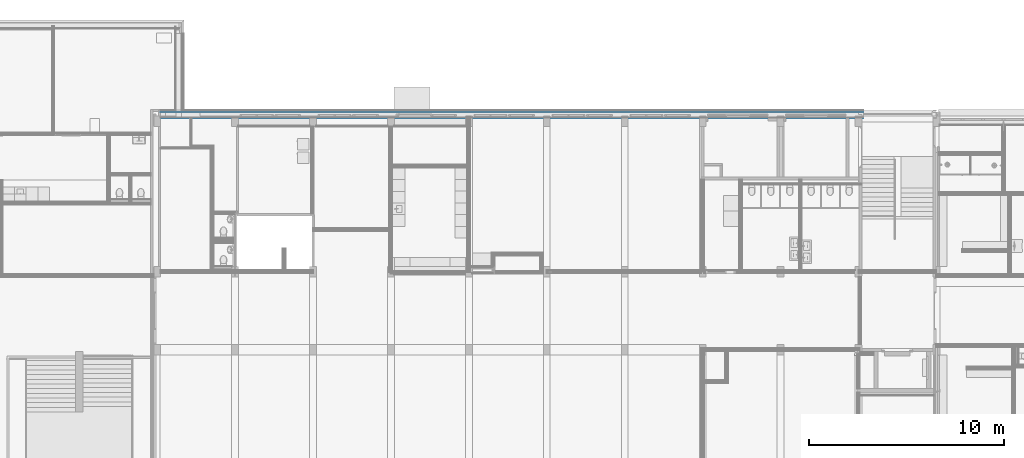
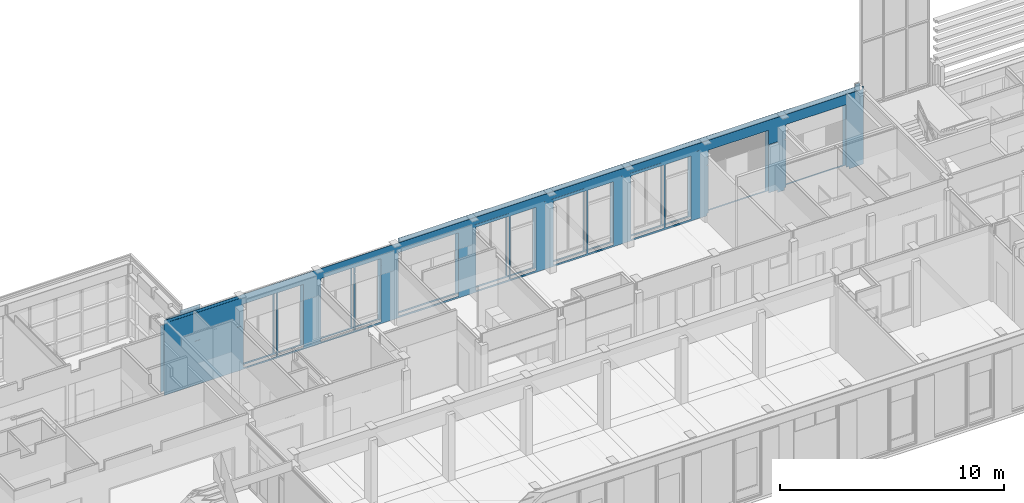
# One storey, part 73 of 109: 2 building element parts, 14 openings, 1 element without a shape of its own.
"""IFC2X3 building model written with IfcOpenShell, lengths in millimetres."""

import ifcopenshell
import ifcopenshell.guid

model = None  # the IFC model being written
_history = None  # IfcOwnerHistory: only IFC2X3 demands one
_inside = {}  # id of a spatial element -> (the spatial element, [elements in it])
_under = {}  # id of a project, library or spatial element -> (it, [spatial elements below it])
_declared = {}  # id of a project -> (the project, [libraries it declares])
_typed = {}  # id of a type object -> (the type object, [elements of that type])
_made_of = {}  # id of a material, layer set ... -> (it, [elements and type objects made of it])


def new_model(schema):
    """Start an empty IFC model of exactly this schema.

    Asked for "IFC4X3", IfcOpenShell would pick the latest addendum, in which some entities
    have other attributes; the version numbers below select the first issue.
    IFC2X3 requires an IfcOwnerHistory on every rooted entity: one is made here for all.
    """
    global model, _history
    if schema == "IFC4X3":
        model = ifcopenshell.file(schema_version=(4, 3, 0, 0))
    else:
        model = ifcopenshell.file(schema=schema)
    _inside.clear()
    _under.clear()
    _declared.clear()
    _typed.clear()
    _made_of.clear()
    _history = None
    if model.schema == "IFC2X3":
        org = make("IfcOrganization", Name="unknown")
        user = make(
            "IfcPersonAndOrganization",
            ThePerson=make("IfcPerson", FamilyName="unknown"),
            TheOrganization=org,
        )
        app = make(
            "IfcApplication",
            ApplicationDeveloper=org,
            Version="unknown",
            ApplicationFullName="unknown",
            ApplicationIdentifier="unknown",
        )
        _history = make(
            "IfcOwnerHistory",
            OwningUser=user,
            OwningApplication=app,
            ChangeAction="ADDED",
            CreationDate=0,
        )
    return model


def make(cls, **values):
    """One entity of the class cls with the attributes given. An attribute that is None is left unset."""
    return model.create_entity(
        cls, **{name: value for name, value in values.items() if value is not None}
    )


def entity(cls, *values):
    """Any entity or typed value of the class cls, its attributes in the order of the schema. None: left unset."""
    e = model.create_entity(cls)
    for i, value in enumerate(values):
        if value is not None:
            e[i] = value
    return e


def rooted(cls, **values):
    """An entity with a GlobalId (a new one), such as an element, a storey or a relation."""
    return make(cls, GlobalId=ifcopenshell.guid.new(), OwnerHistory=_history, **values)


def si_unit(unit_type, name, prefix=None):
    """IfcSIUnit, for example si_unit("LENGTHUNIT", "METRE", prefix="MILLI")."""
    return make("IfcSIUnit", UnitType=unit_type, Prefix=prefix, Name=name)


def converted_unit(unit_type, name, factor, base, dimensions=None, offset=None):
    """IfcConversionBasedUnit, such as the inch: factor (a typed value) times the base unit."""
    return make(
        "IfcConversionBasedUnit"
        if offset is None
        else "IfcConversionBasedUnitWithOffset",
        ConversionOffset=offset,
        Dimensions=None
        if dimensions is None
        else entity("IfcDimensionalExponents", *dimensions),
        UnitType=unit_type,
        Name=name,
        ConversionFactor=make(
            "IfcMeasureWithUnit", ValueComponent=factor, UnitComponent=base
        ),
    )


def derived_unit(unit_type, elements):
    """IfcDerivedUnit: a product of units, each with its exponent."""
    return make(
        "IfcDerivedUnit",
        Elements=[
            make("IfcDerivedUnitElement", Unit=unit, Exponent=power)
            for unit, power in elements
        ],
        UnitType=unit_type,
    )


def money_unit(currency):
    """IfcMonetaryUnit."""
    return make("IfcMonetaryUnit", Currency=currency)


def assignment(units):
    """IfcUnitAssignment: the units of a project."""
    return None if units is None else make("IfcUnitAssignment", Units=units)


def point(xyz):
    """IfcCartesianPoint."""
    return None if xyz is None else make("IfcCartesianPoint", Coordinates=xyz)


def direction(xyz):
    """IfcDirection."""
    return None if xyz is None else make("IfcDirection", DirectionRatios=xyz)


def frame(location, z_axis=None, x_axis=None):
    """IfcAxis2Placement3D, a coordinate frame: its origin and axes. An axis left out is left unset."""
    return make(
        "IfcAxis2Placement3D",
        Location=point(location),
        Axis=direction(z_axis),
        RefDirection=direction(x_axis),
    )


def origin_with_axes():
    """The frame at (0, 0, 0) with the z axis (0, 0, 1) and the x axis (1, 0, 0) written out."""
    return frame((0.0, 0.0, 0.0), z_axis=(0.0, 0.0, 1.0), x_axis=(1.0, 0.0, 0.0))


def place(relative_to, where):
    """IfcLocalPlacement: puts the frame where relative to a parent placement (None: the world)."""
    return make(
        "IfcLocalPlacement", PlacementRelTo=relative_to, RelativePlacement=where
    )


def context(
    kind, dimensions, precision=None, world=None, true_north=None, identifier=None
):
    """IfcGeometricRepresentationContext, for example the 3D "Model" context."""
    return make(
        "IfcGeometricRepresentationContext",
        ContextIdentifier=identifier,
        ContextType=kind,
        CoordinateSpaceDimension=dimensions,
        Precision=precision,
        WorldCoordinateSystem=world,
        TrueNorth=true_north,
    )


def subcontext(parent, identifier, kind, view, scale=None):
    """IfcGeometricRepresentationSubContext, for example "Body" below "Model"."""
    return make(
        "IfcGeometricRepresentationSubContext",
        ContextIdentifier=identifier,
        ContextType=kind,
        ParentContext=parent,
        TargetScale=scale,
        TargetView=view,
    )


def project(units=None, contexts=None):
    """IfcProject with its units and contexts."""
    return rooted(
        "IfcProject",
        Name="project",
        RepresentationContexts=contexts,
        UnitsInContext=assignment(units),
    )


def spatial(cls, under=None, at=None, **own):
    """A site, building, storey or space (cls), placed at a placement, below another one or the project."""
    s = rooted(cls, ObjectPlacement=at, **own)
    if under is not None:
        _under.setdefault(under.id(), (under, []))[1].append(s)
    return s


def faces_of(points, faces, orient=None, outer=None):
    """IfcFace entities. A face is a list of loops; a loop is a list of indices into points, from 0.

    orient and outer hold one flag for each loop. By default every Orientation is true, the
    first loop of a face is its IfcFaceOuterBound and the others are IfcFaceBound.
    """
    made = []
    for i, loops in enumerate(faces):
        bounds = []
        for j, loop in enumerate(loops):
            is_outer = j == 0 if outer is None else outer[i][j]
            bounds.append(
                make(
                    "IfcFaceOuterBound" if is_outer else "IfcFaceBound",
                    Bound=make("IfcPolyLoop", Polygon=[points[k] for k in loop]),
                    Orientation=True if orient is None else orient[i][j],
                )
            )
        made.append(make("IfcFace", Bounds=bounds))
    return made


def faceted_brep(points, faces, orient=None, outer=None, voids=None):
    """IfcFacetedBrep: a solid bounded by flat faces; with voids (closed shells), ...WithVoids."""
    shared = [point(p) for p in points]
    hull = make("IfcClosedShell", CfsFaces=faces_of(shared, faces, orient, outer))
    if voids is None:
        return make("IfcFacetedBrep", Outer=hull)
    return make(
        "IfcFacetedBrepWithVoids",
        Outer=hull,
        Voids=[
            make(cls, CfsFaces=faces_of(shared, fs, o, b)) for cls, fs, o, b in voids
        ],
    )


def shape(context_of_items, identifier, shape_type, items):
    """IfcShapeRepresentation: the items that make up one representation, for example the "Body"."""
    return make(
        "IfcShapeRepresentation",
        ContextOfItems=context_of_items,
        RepresentationIdentifier=identifier,
        RepresentationType=shape_type,
        Items=items,
    )


def material(Name=None, Category=None):
    """IfcMaterial."""
    return make("IfcMaterial", Name=Name, Category=Category)


def made_of(thing, what):
    """Note that an element or type object is made of a material, layer set ...; save() writes the relation."""
    if what is not None:
        _made_of.setdefault(what.id(), (what, []))[1].append(thing)
    return thing


def type_object(cls, material=None, **own):
    """A type object (cls), such as IfcWallType, which elements share."""
    return made_of(rooted(cls, **own), material)


def element(
    cls,
    number,
    at=None,
    inside=None,
    cuts=None,
    type_object=None,
    material=None,
    context=None,
    identifier="Body",
    shape_type=None,
    held_by="IfcProductDefinitionShape",
    body=None,
    shapes=None,
    **own,
):
    """One element of the class cls, such as IfcWall. Its Tag is "e" and its number.

    at: its placement. inside: the storey or other place that contains it. cuts: it is an
    opening in that element (IfcRelVoidsElement). A single representation is given by context,
    identifier, shape_type and body (its items); several are given by shapes. held_by: the class
    of the entity that holds the representations. save() writes the other relations.
    """
    e = rooted(cls, Tag="e%d" % number, ObjectPlacement=at, **own)
    if body is not None:
        shapes = [shape(context, identifier, shape_type, body)]
    if shapes is not None:
        e.Representation = make(held_by, Representations=shapes)
    if inside is not None:
        _inside.setdefault(inside.id(), (inside, []))[1].append(e)
    if cuts is not None:
        rooted(
            "IfcRelVoidsElement", RelatingBuildingElement=cuts, RelatedOpeningElement=e
        )
    if type_object is not None:
        _typed.setdefault(type_object.id(), (type_object, []))[1].append(e)
    return made_of(e, material)


def aggregate(whole, parts):
    """IfcRelAggregates: a whole, such as a stair, and the parts it consists of."""
    return rooted("IfcRelAggregates", RelatingObject=whole, RelatedObjects=parts)


def save(model, path):
    """Write the relations noted so far, then the file.

    IfcRelAggregates (storeys below a building ...), IfcRelContainedInSpatialStructure (elements
    in a storey), IfcRelDefinesByType, IfcRelAssociatesMaterial and IfcRelDeclares: one each for
    every whole, place, type object, material and project.
    """
    for whole, parts in _under.values():
        aggregate(whole, parts)
    for where, things in _inside.values():
        rooted(
            "IfcRelContainedInSpatialStructure",
            RelatedElements=things,
            RelatingStructure=where,
        )
    for kind, things in _typed.values():
        rooted("IfcRelDefinesByType", RelatedObjects=things, RelatingType=kind)
    for what, things in _made_of.values():
        rooted("IfcRelAssociatesMaterial", RelatedObjects=things, RelatingMaterial=what)
    for by, libraries in _declared.values():
        rooted("IfcRelDeclares", RelatingContext=by, RelatedDefinitions=libraries)
    model.write(path)


model = new_model("IFC2X3")

# Units and contexts
model_context = context("Model", 3, precision=0.01, world=origin_with_axes(), true_north=direction((0.0, 1.0)))
body_context = subcontext(model_context, "Body", "Model", "MODEL_VIEW")
ifc_project = project(units=[si_unit("LENGTHUNIT", "METRE", prefix="MILLI"), si_unit("AREAUNIT", "SQUARE_METRE"), si_unit("VOLUMEUNIT", "CUBIC_METRE"), converted_unit("PLANEANGLEUNIT", "DEGREE", entity("IfcPlaneAngleMeasure", 0.0174532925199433), si_unit("PLANEANGLEUNIT", "RADIAN"), dimensions=[0, 0, 0, 0, 0, 0, 0]), money_unit("EUR"), converted_unit("TIMEUNIT", "Year", entity("IfcTimeMeasure", 31557600.0), si_unit("TIMEUNIT", "SECOND"), dimensions=[0, 0, 1, 0, 0, 0, 0]), si_unit("MASSUNIT", "GRAM", prefix="KILO"), si_unit("THERMODYNAMICTEMPERATUREUNIT", "DEGREE_CELSIUS"), si_unit("LUMINOUSINTENSITYUNIT", "LUMEN"), si_unit("ENERGYUNIT", "JOULE", prefix="MEGA"), derived_unit("THERMALCONDUCTANCEUNIT", [(si_unit("POWERUNIT", "WATT"), 1), (si_unit("LENGTHUNIT", "METRE"), -1), (si_unit("THERMODYNAMICTEMPERATUREUNIT", "KELVIN"), -1)]), derived_unit("SPECIFICHEATCAPACITYUNIT", [(si_unit("ENERGYUNIT", "JOULE"), 1), (si_unit("MASSUNIT", "GRAM", prefix="KILO"), -1), (si_unit("THERMODYNAMICTEMPERATUREUNIT", "KELVIN"), -1)]), derived_unit("MASSDENSITYUNIT", [(si_unit("MASSUNIT", "GRAM", prefix="KILO"), 1), (si_unit("VOLUMEUNIT", "CUBIC_METRE"), -1)])], contexts=[model_context])

# Site, building, storey
site_placement = place(None, origin_with_axes())
site = spatial("IfcSite", under=ifc_project, at=site_placement, Name="<site naam>", CompositionType="ELEMENT")
building_placement = place(site_placement, origin_with_axes())
building = spatial("IfcBuilding", under=site, at=building_placement, Name="<Naam gebouw>", CompositionType="ELEMENT")
storey_placement = place(building_placement, origin_with_axes())
storey = spatial("IfcBuildingStorey", under=building, at=storey_placement, Name="00 Begane grond", CompositionType="ELEMENT", Elevation=0.0)

# Wall, openings, building element parts
wall_type = type_object("IfcWallType", Name="HSB_285 gevelbeplating 420", PredefinedType="NOTDEFINED")
wall_placement = place(storey_placement, frame((48251.99999966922, 20297.99999999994, 0.0), z_axis=(0.0, 0.0, 1.0), x_axis=(-1.0, 0.0, 0.0)))
wall = element("IfcWall", 1, at=wall_placement, inside=storey, type_object=wall_type, Name="21_Binnenwand_HSB_285")
opening_1_placement = place(wall_placement, frame((17550.9999996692, 0.0, 100.0), z_axis=(0.0, 0.0, 1.0), x_axis=(1.0, 0.0, 0.0)))
element("IfcOpeningElement", 2, at=opening_1_placement, cuts=wall, Name="21_BU-A-01b sp_305", context=body_context, shape_type="Brep", body=[
    faceted_brep([(663.0000000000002, 212.9999999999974, 3450.0), (-663.0000000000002, 212.9999999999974, 3450.0), (-663.0000000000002, -1.000000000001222, 3450.0), (663.0000000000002, -1.000000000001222, 3450.0), (663.0000000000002, 421.000000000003, 3450.0), (-663.0000000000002, 421.000000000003, 3450.0), (-663.0000000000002, 212.9999999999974, 0.0), (-663.0000000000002, -1.000000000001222, 0.0), (663.0000000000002, -1.000000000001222, 0.0), (663.0000000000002, 212.9999999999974, 0.0), (663.0000000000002, 421.000000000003, 0.0), (-663.0000000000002, 421.000000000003, 0.0)], [[[0, 1, 2, 3]], [[1, 0, 4, 5]], [[1, 6, 7, 2]], [[2, 7, 8, 3]], [[9, 0, 3, 8]], [[0, 9, 10, 4]], [[4, 10, 11, 5]], [[6, 1, 5, 11]], [[6, 9, 8, 7]], [[9, 6, 11, 10]]]),
])
opening_2_placement = place(wall_placement, frame((25551.00012310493, 0.0, 100.0), z_axis=(0.0, 0.0, 1.0), x_axis=(1.0, 0.0, 0.0)))
element("IfcOpeningElement", 3, at=opening_2_placement, cuts=wall, Name="21_BU-A-01b sp_305", context=body_context, shape_type="Brep", body=[
    faceted_brep([(663.0000000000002, 212.9999999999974, 3450.0), (-663.0000000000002, 212.9999999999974, 3450.0), (-663.0000000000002, -1.000000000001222, 3450.0), (663.0000000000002, -1.000000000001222, 3450.0), (663.0000000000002, 421.000000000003, 3450.0), (-663.0000000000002, 421.000000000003, 3450.0), (-663.0000000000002, 212.9999999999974, 0.0), (-663.0000000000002, -1.000000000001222, 0.0), (663.0000000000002, -1.000000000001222, 0.0), (663.0000000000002, 212.9999999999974, 0.0), (663.0000000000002, 421.000000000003, 0.0), (-663.0000000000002, 421.000000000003, 0.0)], [[[0, 1, 2, 3]], [[1, 0, 4, 5]], [[1, 6, 7, 2]], [[2, 7, 8, 3]], [[9, 0, 3, 8]], [[0, 9, 10, 4]], [[4, 10, 11, 5]], [[6, 1, 5, 11]], [[6, 9, 8, 7]], [[9, 6, 11, 10]]]),
])
opening_3_placement = place(wall_placement, frame((27140.99995093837, 0.0, 100.0), z_axis=(0.0, 0.0, 1.0), x_axis=(1.0, 0.0, 0.0)))
element("IfcOpeningElement", 4, at=opening_3_placement, cuts=wall, Name="21_BU-A-01a sp_305", context=body_context, shape_type="Brep", body=[
    faceted_brep([(850.9999999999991, 212.9999999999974, 3450.0), (-850.9999999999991, 212.9999999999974, 3450.0), (-850.9999999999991, -1.000000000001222, 3450.0), (850.9999999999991, -1.000000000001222, 3450.0), (850.9999999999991, 421.000000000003, 3450.0), (-850.9999999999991, 421.000000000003, 3450.0), (-850.9999999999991, 212.9999999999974, 0.0), (-850.9999999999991, -1.000000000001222, 0.0), (850.9999999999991, -1.000000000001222, 0.0), (850.9999999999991, 212.9999999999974, 0.0), (850.9999999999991, 421.000000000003, 0.0), (-850.9999999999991, 421.000000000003, 0.0)], [[[0, 1, 2, 3]], [[1, 0, 4, 5]], [[1, 6, 7, 2]], [[2, 7, 8, 3]], [[9, 0, 3, 8]], [[0, 9, 10, 4]], [[4, 10, 11, 5]], [[6, 1, 5, 11]], [[6, 9, 8, 7]], [[9, 6, 11, 10]]]),
])
opening_4_placement = place(wall_placement, frame((19140.98053610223, 0.0, 100.0), z_axis=(0.0, 0.0, 1.0), x_axis=(1.0, 0.0, 0.0)))
element("IfcOpeningElement", 5, at=opening_4_placement, cuts=wall, Name="21_BU-A-01a sp_305", context=body_context, shape_type="Brep", body=[
    faceted_brep([(850.9999999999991, 212.9999999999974, 3450.0), (-850.9999999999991, 212.9999999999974, 3450.0), (-850.9999999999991, -1.000000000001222, 3450.0), (850.9999999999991, -1.000000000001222, 3450.0), (850.9999999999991, 421.000000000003, 3450.0), (-850.9999999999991, 421.000000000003, 3450.0), (-850.9999999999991, 212.9999999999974, 0.0), (-850.9999999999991, -1.000000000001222, 0.0), (850.9999999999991, -1.000000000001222, 0.0), (850.9999999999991, 212.9999999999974, 0.0), (850.9999999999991, 421.000000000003, 0.0), (-850.9999999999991, 421.000000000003, 0.0)], [[[0, 1, 2, 3]], [[1, 0, 4, 5]], [[1, 6, 7, 2]], [[2, 7, 8, 3]], [[9, 0, 3, 8]], [[0, 9, 10, 4]], [[4, 10, 11, 5]], [[6, 1, 5, 11]], [[6, 9, 8, 7]], [[9, 6, 11, 10]]]),
])
opening_5_placement = place(wall_placement, frame((9551.000010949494, 0.0, 100.0), z_axis=(0.0, 0.0, 1.0), x_axis=(1.0, 0.0, 0.0)))
element("IfcOpeningElement", 6, at=opening_5_placement, cuts=wall, Name="21_BU-A-01b sp_305", context=body_context, shape_type="Brep", body=[
    faceted_brep([(662.9999999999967, 213.000000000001, 3450.0), (-662.9999999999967, 213.000000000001, 3450.0), (-662.9999999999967, -1.000000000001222, 3450.0), (662.9999999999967, -1.000000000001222, 3450.0), (662.9999999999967, 421.000000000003, 3450.0), (-662.9999999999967, 421.000000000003, 3450.0), (-662.9999999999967, 213.000000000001, 0.0), (-662.9999999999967, -1.000000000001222, 0.0), (662.9999999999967, -1.000000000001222, 0.0), (662.9999999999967, 213.000000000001, 0.0), (662.9999999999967, 421.000000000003, 0.0), (-662.9999999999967, 421.000000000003, 0.0)], [[[0, 1, 2, 3]], [[1, 0, 4, 5]], [[1, 6, 7, 2]], [[2, 7, 8, 3]], [[9, 0, 3, 8]], [[0, 9, 10, 4]], [[4, 10, 11, 5]], [[6, 1, 5, 11]], [[6, 9, 8, 7]], [[9, 6, 11, 10]]]),
])
opening_6_placement = place(wall_placement, frame((13550.99999966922, 0.0, 100.0), z_axis=(0.0, 0.0, 1.0), x_axis=(1.0, 0.0, 0.0)))
element("IfcOpeningElement", 7, at=opening_6_placement, cuts=wall, Name="21_BU-A-01b sp_305", context=body_context, shape_type="Brep", body=[
    faceted_brep([(662.9999999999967, 213.000000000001, 3450.0), (-662.9999999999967, 213.000000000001, 3450.0), (-662.9999999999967, -1.000000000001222, 3450.0), (662.9999999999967, -1.000000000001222, 3450.0), (662.9999999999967, 421.000000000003, 3450.0), (-662.9999999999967, 421.000000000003, 3450.0), (-662.9999999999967, 213.000000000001, 0.0), (-662.9999999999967, -1.000000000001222, 0.0), (662.9999999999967, -1.000000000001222, 0.0), (662.9999999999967, 213.000000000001, 0.0), (662.9999999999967, 421.000000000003, 0.0), (-662.9999999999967, 421.000000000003, 0.0)], [[[0, 1, 2, 3]], [[1, 0, 4, 5]], [[1, 6, 7, 2]], [[2, 7, 8, 3]], [[9, 0, 3, 8]], [[0, 9, 10, 4]], [[4, 10, 11, 5]], [[6, 1, 5, 11]], [[6, 9, 8, 7]], [[9, 6, 11, 10]]]),
])
opening_7_placement = place(wall_placement, frame((11140.9999996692, 0.0, 100.0), z_axis=(0.0, 0.0, 1.0), x_axis=(1.0, 0.0, 0.0)))
element("IfcOpeningElement", 8, at=opening_7_placement, cuts=wall, Name="21_BU-A-01a sp_305", context=body_context, shape_type="Brep", body=[
    faceted_brep([(850.9999999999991, 213.000000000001, 3450.0), (-850.9999999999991, 213.000000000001, 3450.0), (-850.9999999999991, -1.000000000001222, 3450.0), (850.9999999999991, -1.000000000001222, 3450.0), (850.9999999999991, 421.000000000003, 3450.0), (-850.9999999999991, 421.000000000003, 3450.0), (-850.9999999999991, 213.000000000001, 0.0), (-850.9999999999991, -1.000000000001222, 0.0), (850.9999999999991, -1.000000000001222, 0.0), (850.9999999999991, 213.000000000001, 0.0), (850.9999999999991, 421.000000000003, 0.0), (-850.9999999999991, 421.000000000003, 0.0)], [[[0, 1, 2, 3]], [[1, 0, 4, 5]], [[1, 6, 7, 2]], [[2, 7, 8, 3]], [[9, 0, 3, 8]], [[0, 9, 10, 4]], [[4, 10, 11, 5]], [[6, 1, 5, 11]], [[6, 9, 8, 7]], [[9, 6, 11, 10]]]),
])
opening_8_placement = place(wall_placement, frame((21551.00000902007, 0.0, 100.0), z_axis=(0.0, 0.0, 1.0), x_axis=(1.0, 0.0, 0.0)))
element("IfcOpeningElement", 9, at=opening_8_placement, cuts=wall, Name="21_BU-A-01b sp_305", context=body_context, shape_type="Brep", body=[
    faceted_brep([(663.0000000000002, 212.9999999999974, 3450.0), (-663.0000000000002, 212.9999999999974, 3450.0), (-663.0000000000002, -1.000000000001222, 3450.0), (663.0000000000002, -1.000000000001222, 3450.0), (663.0000000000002, 421.000000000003, 3450.0), (-663.0000000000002, 421.000000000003, 3450.0), (-663.0000000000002, 212.9999999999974, 0.0), (-663.0000000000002, -1.000000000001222, 0.0), (663.0000000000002, -1.000000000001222, 0.0), (663.0000000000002, 212.9999999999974, 0.0), (663.0000000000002, 421.000000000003, 0.0), (-663.0000000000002, 421.000000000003, 0.0)], [[[0, 1, 2, 3]], [[1, 0, 4, 5]], [[1, 6, 7, 2]], [[2, 7, 8, 3]], [[9, 0, 3, 8]], [[0, 9, 10, 4]], [[4, 10, 11, 5]], [[6, 1, 5, 11]], [[6, 9, 8, 7]], [[9, 6, 11, 10]]]),
])
opening_9_placement = place(wall_placement, frame((29550.99999966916, 0.0, 100.0), z_axis=(0.0, 0.0, 1.0), x_axis=(1.0, 0.0, 0.0)))
element("IfcOpeningElement", 10, at=opening_9_placement, cuts=wall, Name="21_BU-A-01b sp_305", context=body_context, shape_type="Brep", body=[
    faceted_brep([(663.0000000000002, 212.9999999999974, 3450.0), (-663.0000000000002, 212.9999999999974, 3450.0), (-663.0000000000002, -1.000000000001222, 3450.0), (663.0000000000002, -1.000000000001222, 3450.0), (663.0000000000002, 421.000000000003, 3450.0), (-663.0000000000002, 421.000000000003, 3450.0), (-663.0000000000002, 212.9999999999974, 0.0), (-663.0000000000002, -1.000000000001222, 0.0), (663.0000000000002, -1.000000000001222, 0.0), (663.0000000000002, 212.9999999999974, 0.0), (663.0000000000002, 421.000000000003, 0.0), (-663.0000000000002, 421.000000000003, 0.0)], [[[0, 1, 2, 3]], [[1, 0, 4, 5]], [[1, 6, 7, 2]], [[2, 7, 8, 3]], [[9, 0, 3, 8]], [[0, 9, 10, 4]], [[4, 10, 11, 5]], [[6, 1, 5, 11]], [[6, 9, 8, 7]], [[9, 6, 11, 10]]]),
])
opening_10_placement = place(wall_placement, frame((31140.99993875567, 0.0, 100.0), z_axis=(0.0, 0.0, 1.0), x_axis=(1.0, 0.0, 0.0)))
element("IfcOpeningElement", 11, at=opening_10_placement, cuts=wall, Name="21_BU-A-01a sp_305", context=body_context, shape_type="Brep", body=[
    faceted_brep([(850.9999999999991, 212.9999999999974, 3450.0), (-850.9999999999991, 212.9999999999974, 3450.0), (-850.9999999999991, -1.000000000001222, 3450.0), (850.9999999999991, -1.000000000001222, 3450.0), (850.9999999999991, 421.000000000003, 3450.0), (-850.9999999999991, 421.000000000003, 3450.0), (-850.9999999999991, 212.9999999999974, 0.0), (-850.9999999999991, -1.000000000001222, 0.0), (850.9999999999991, -1.000000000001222, 0.0), (850.9999999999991, 212.9999999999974, 0.0), (850.9999999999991, 421.000000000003, 0.0), (-850.9999999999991, 421.000000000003, 0.0)], [[[0, 1, 2, 3]], [[1, 0, 4, 5]], [[1, 6, 7, 2]], [[2, 7, 8, 3]], [[9, 0, 3, 8]], [[0, 9, 10, 4]], [[4, 10, 11, 5]], [[6, 1, 5, 11]], [[6, 9, 8, 7]], [[9, 6, 11, 10]]]),
])
opening_11_placement = place(wall_placement, frame((23073.49996408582, 0.0, 103.0000398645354), z_axis=(0.0, 0.0, 1.0), x_axis=(1.0, 0.0, 0.0)))
element("IfcOpeningElement", 12, at=opening_11_placement, cuts=wall, Name="21_BU-C-02_305", context=body_context, shape_type="Brep", body=[
    faceted_brep([(918.4999990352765, 204.9999999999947, 3451.998648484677), (-918.4999990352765, 204.9999999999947, 3451.998648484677), (-918.4999990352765, -1.000000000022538, 3451.998648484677), (918.4999990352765, -1.000000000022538, 3451.998648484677), (918.4999990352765, 421.000000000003, 3451.998648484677), (-918.4999990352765, 421.000000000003, 3451.998648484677), (-918.4999990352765, 204.9999999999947, 0.0), (-918.4999990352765, -1.000000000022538, 0.0), (918.4999990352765, -1.000000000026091, 0.0), (918.4999990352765, 204.9999999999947, 0.0), (918.4999990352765, 421.000000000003, 0.0), (-918.4999990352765, 421.000000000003, 0.0)], [[[0, 1, 2, 3]], [[1, 0, 4, 5]], [[1, 6, 7, 2]], [[2, 7, 8, 3]], [[9, 0, 3, 8]], [[0, 9, 10, 4]], [[4, 10, 11, 5]], [[6, 1, 5, 11]], [[6, 9, 8, 7]], [[9, 6, 11, 10]]]),
])
opening_12_placement = place(wall_placement, frame((2441.000957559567, 0.0, 78.00000000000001), z_axis=(0.0, 0.0, 1.0), x_axis=(1.0, 0.0, 0.0)))
element("IfcOpeningElement", 13, at=opening_12_placement, cuts=wall, Name="21_BU-F-01_305", context=body_context, shape_type="Brep", body=[
    faceted_brep([(1552.0, 204.9999999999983, 3472.000000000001), (-1552.0, 204.9999999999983, 3472.000000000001), (-1552.0, -1.000000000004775, 3472.000000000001), (1552.0, -1.000000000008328, 3472.000000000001), (1552.0, 421.000000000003, 3472.000000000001), (-1552.0, 421.000000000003, 3472.000000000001), (-1552.0, 204.9999999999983, 0.0), (-1552.0, -1.000000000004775, 0.0), (1552.0, -1.000000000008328, 0.0), (1552.0, 204.9999999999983, 0.0), (1552.0, 421.000000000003, 0.0), (-1552.0, 421.000000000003, 0.0)], [[[0, 1, 2, 3]], [[1, 0, 4, 5]], [[1, 6, 7, 2]], [[2, 7, 8, 3]], [[9, 0, 3, 8]], [[0, 9, 10, 4]], [[4, 10, 11, 5]], [[6, 1, 5, 11]], [[6, 9, 8, 7]], [[9, 6, 11, 10]]]),
])
opening_13_placement = place(wall_placement, frame((6439.999999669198, 0.0, 77.99999999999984), z_axis=(0.0, 0.0, 1.0), x_axis=(1.0, 0.0, 0.0)))
element("IfcOpeningElement", 14, at=opening_13_placement, cuts=wall, Name="21_BU-F-01_305", context=body_context, shape_type="Brep", body=[
    faceted_brep([(1552.0, 204.9999999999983, 3472.000000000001), (-1552.0, 204.9999999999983, 3472.000000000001), (-1552.0, -1.000000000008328, 3472.000000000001), (1552.0, -1.00000000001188, 3472.000000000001), (1552.0, 421.000000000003, 3472.000000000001), (-1552.0, 421.000000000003, 3472.000000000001), (-1552.0, 204.9999999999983, 0.0), (-1552.0, -1.000000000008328, 0.0), (1552.0, -1.00000000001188, 0.0), (1552.0, 204.9999999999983, 0.0), (1552.0, 421.000000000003, 0.0), (-1552.0, 421.000000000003, 0.0)], [[[0, 1, 2, 3]], [[1, 0, 4, 5]], [[1, 6, 7, 2]], [[2, 7, 8, 3]], [[9, 0, 3, 8]], [[0, 9, 10, 4]], [[4, 10, 11, 5]], [[6, 1, 5, 11]], [[6, 9, 8, 7]], [[9, 6, 11, 10]]]),
])
opening_14_placement = place(wall_placement, frame((15140.99984577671, 0.0, 100.0), z_axis=(0.0, 0.0, 1.0), x_axis=(1.0, 0.0, 0.0)))
element("IfcOpeningElement", 15, at=opening_14_placement, cuts=wall, Name="21_BU-A-01a sp_305", context=body_context, shape_type="Brep", body=[
    faceted_brep([(850.9999999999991, 212.9999999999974, 3450.0), (-850.9999999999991, 212.9999999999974, 3450.0), (-850.9999999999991, -1.000000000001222, 3450.0), (850.9999999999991, -1.000000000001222, 3450.0), (850.9999999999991, 421.000000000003, 3450.0), (-850.9999999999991, 421.000000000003, 3450.0), (-850.9999999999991, 212.9999999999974, 0.0), (-850.9999999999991, -1.000000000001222, 0.0), (850.9999999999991, -1.000000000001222, 0.0), (850.9999999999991, 212.9999999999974, 0.0), (850.9999999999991, 421.000000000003, 0.0), (-850.9999999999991, 421.000000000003, 0.0)], [[[0, 1, 2, 3]], [[1, 0, 4, 5]], [[1, 6, 7, 2]], [[2, 7, 8, 3]], [[9, 0, 3, 8]], [[0, 9, 10, 4]], [[4, 10, 11, 5]], [[6, 1, 5, 11]], [[6, 9, 8, 7]], [[9, 6, 11, 10]]]),
])
ifc_material_1 = material(Name="brandwerende_bekleding")
building_element_part_1_placement = place(wall_placement, origin_with_axes())
building_element_part_1 = element("IfcBuildingElementPart", 16, at=building_element_part_1_placement, material=ifc_material_1, Name="brandwerende_bekleding", context=body_context, shape_type="Brep", body=[
    faceted_brep([(23826.47051499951, 102.4999999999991, 4100.000000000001), (251.9999996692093, 102.5000000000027, 4100.000000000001), (251.9999996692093, 102.5000000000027, 4220.0), (251.9999996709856, 102.4999999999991, 4250.0), (0.0, 102.4999999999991, 4250.0), (0.0, 102.4999999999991, 0.0), (34997.89014477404, 102.4999999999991, 0.0), (34997.89014477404, 102.4999999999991, 3546.975460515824), (35287.39014477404, 102.4999999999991, 3546.975460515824), (35287.39014477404, 102.4999999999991, 0.0), (36076.99999966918, 102.4999999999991, 0.0), (36076.99999966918, 102.4999999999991, 3619.999999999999), (35826.99998672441, 102.4999999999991, 3619.999999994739), (35826.99998672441, 102.4999999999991, 3920.0), (35076.99999966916, 102.4999999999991, 3920.0), (35076.99999966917, 102.4999999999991, 4100.000000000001), (34041.47051499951, 102.4999999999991, 4100.000000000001), (34041.47051499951, 102.4999999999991, 3620.0), (23826.47051499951, 102.4999999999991, 3620.0), (23826.47051499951, 106.9999999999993, 4100.000000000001), (251.9999996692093, 107.0000000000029, 4100.000000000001), (251.9999996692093, 107.0000000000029, 4220.0), (251.9999996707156, 106.9999999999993, 4250.0), (0.0, 106.9999999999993, 4250.0), (0.0, 106.9999999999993, 0.0), (34997.89014477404, 106.9999999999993, 0.0), (34997.89014477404, 106.9999999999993, 3546.975460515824), (35287.39014477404, 106.9999999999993, 3546.975460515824), (35287.39014477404, 106.9999999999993, 0.0), (36076.99999966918, 106.9999999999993, 0.0), (36076.99999966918, 106.9999999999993, 3619.999999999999), (35826.99998672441, 106.9999999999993, 3619.999999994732), (35826.99998672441, 106.9999999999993, 3920.0), (35076.99999966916, 106.9999999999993, 3920.0), (35076.99999966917, 106.9999999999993, 4100.000000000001), (34041.47051499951, 106.9999999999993, 4100.000000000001), (34041.47051499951, 106.9999999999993, 3620.0), (23826.47051499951, 106.9999999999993, 3620.0)], [[[0, 1, 2, 3, 4, 5, 6, 7, 8, 9, 10, 11, 12, 13, 14, 15, 16, 17, 18]], [[1, 0, 19, 20]], [[21, 2, 1, 20]], [[2, 21, 22, 3]], [[4, 3, 22, 23]], [[23, 24, 5, 4]], [[25, 6, 5, 24]], [[7, 6, 25, 26]], [[7, 26, 27, 8]], [[9, 8, 27, 28]], [[9, 28, 29, 10]], [[10, 29, 30, 11]], [[30, 31, 12, 11]], [[12, 31, 32, 13]], [[32, 33, 14, 13]], [[34, 15, 14, 33]], [[35, 16, 15, 34]], [[16, 35, 36, 17]], [[36, 37, 18, 17]], [[19, 0, 18, 37]], [[20, 19, 37, 36, 35, 34, 33, 32, 31, 30, 29, 28, 27, 26, 25, 24, 23, 22, 21]]]),
])
ifc_material_2 = material(Name="gipsplaat")
building_element_part_2_placement = place(wall_placement, origin_with_axes())
building_element_part_2 = element("IfcBuildingElementPart", 17, at=building_element_part_2_placement, material=ifc_material_2, Name="gipsplaat", context=body_context, shape_type="Brep", body=[
    faceted_brep([(32116.47051499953, 407.5000000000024, 4100.000000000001), (77.42214540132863, 407.5000000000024, 4100.000000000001), (77.42214540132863, 407.4999999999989, 4250.0), (0.0, 407.4999999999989, 4250.0), (0.0, 407.4999999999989, 3.000000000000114), (76.9999996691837, 407.5000000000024, 3.000000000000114), (76.9999996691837, 407.4999999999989, 0.0), (739.1156105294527, 407.4999999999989, 0.0), (739.1156105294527, 407.5000000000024, 129.9999999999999), (4076.999999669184, 407.5000000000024, 129.9999999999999), (4076.999999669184, 407.4999999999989, 0.0), (4426.999999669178, 407.4999999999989, 0.0), (4426.999999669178, 407.5000000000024, 129.9999999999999), (8077.000047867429, 407.5000000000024, 129.9999999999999), (8077.000047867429, 407.4999999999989, 0.0), (8326.999999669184, 407.4999999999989, 0.0), (8326.999999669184, 407.4999999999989, 3.000000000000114), (20176.99984466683, 407.4999999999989, 3.000000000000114), (20176.99984466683, 407.4999999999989, 0.0), (20326.99993171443, 407.4999999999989, 0.0), (20326.99993171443, 407.4999999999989, 3.000000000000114), (24177.00005669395, 407.4999999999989, 3.000000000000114), (24177.00005669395, 407.4999999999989, 0.0), (24426.99990839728, 407.4999999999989, 0.0), (24426.99990839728, 407.4999999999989, 3.000000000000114), (28076.99984942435, 407.4999999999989, 3.000000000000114), (28076.99984942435, 407.4999999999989, 0.0), (28427.00011923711, 407.4999999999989, 0.0), (28427.00011923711, 407.4999999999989, 3.000000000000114), (32077.00001533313, 407.4999999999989, 3.000000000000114), (32077.00001533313, 407.4999999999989, 0.0), (32427.00006550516, 407.4999999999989, 0.0), (32427.00006550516, 407.4999999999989, 3.000000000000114), (34464.49991009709, 407.4999999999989, 3.000000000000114), (34464.49991009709, 407.4999999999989, 0.0), (36076.99999966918, 407.4999999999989, 0.0), (36076.99999966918, 407.4999999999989, 4100.000000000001), (35766.47051499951, 407.5000000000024, 4100.000000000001), (35766.47051499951, 407.5000000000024, 4090.499903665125), (34359.74999966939, 407.5000000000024, 4090.499903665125), (34359.7499996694, 407.5000000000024, 3975.498786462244), (34426.99999966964, 407.5000000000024, 3975.498786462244), (34426.99999966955, 407.5000000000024, 3966.998786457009), (34286.99999966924, 407.5000000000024, 3966.998786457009), (34286.99999966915, 407.5000000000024, 3975.498786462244), (34354.2499996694, 407.5000000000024, 3975.498786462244), (34354.2499996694, 407.5000000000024, 4090.499903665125), (32116.47051499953, 407.5000000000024, 4090.499903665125), (4426.999999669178, 407.5000000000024, 2769.999960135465), (8076.99998674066, 407.5000000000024, 2769.999960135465), (8076.99998674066, 407.5000000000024, 2729.999960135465), (4426.999999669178, 407.5000000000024, 2729.999960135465), (889.0009510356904, 407.5000000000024, 2769.999960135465), (4077.000012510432, 407.5000000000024, 2769.999960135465), (4077.000012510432, 407.5000000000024, 2729.999960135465), (889.0009510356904, 407.5000000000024, 2729.999960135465), (35766.47051499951, 407.5000000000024, 3938.499955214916), (35766.47051499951, 407.5000000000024, 3928.999844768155), (32116.47051499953, 407.5000000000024, 3928.999844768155), (32116.47051499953, 407.5000000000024, 3938.499955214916), (32116.47051499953, 419.9999999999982, 4100.000000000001), (32076.99999966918, 419.9999999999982, 4100.000000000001), (32076.99999966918, 414.000022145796, 4100.000000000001), (28426.99999966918, 414.000022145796, 4100.000000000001), (28426.99999966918, 419.9999999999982, 4100.000000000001), (77.42214540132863, 419.9999999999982, 4100.000000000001), (77.42214540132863, 420.0000000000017, 4250.0), (0.0, 420.0000000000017, 4250.0), (0.0, 420.0000000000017, 3.000000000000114), (76.9999996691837, 419.9999999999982, 3.000000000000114), (76.9999996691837, 420.0000000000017, 0.0), (739.1156105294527, 420.0000000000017, 0.0), (739.1156105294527, 419.9999999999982, 129.9999999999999), (4076.999999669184, 419.9999999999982, 129.9999999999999), (4076.999999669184, 420.0000000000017, 0.0), (4426.999999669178, 420.0000000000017, 0.0), (4426.999999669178, 419.9999999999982, 129.9999999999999), (8077.000047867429, 419.9999999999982, 129.9999999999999), (8077.000047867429, 420.0000000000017, 0.0), (8326.999999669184, 420.0000000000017, 0.0), (8326.999999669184, 419.9999999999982, 3.000000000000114), (20176.99984466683, 419.9999999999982, 3.000000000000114), (20176.99984466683, 420.0000000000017, 0.0), (20327.00002768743, 419.9999999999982, 0.0), (20327.00002768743, 419.9999999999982, 3.000000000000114), (24176.99999966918, 419.9999999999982, 3.000000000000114), (24176.99999966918, 419.9999999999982, 0.0), (24426.99990839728, 419.9999999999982, 0.0), (24426.99990839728, 419.9999999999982, 3.000000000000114), (28076.99984942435, 419.9999999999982, 3.000000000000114), (28076.99984942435, 419.9999999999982, 0.0), (28427.00011923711, 419.9999999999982, 0.0), (28427.00011923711, 419.9999999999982, 3.000000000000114), (32077.00001533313, 419.9999999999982, 3.000000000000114), (32077.00001533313, 419.9999999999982, 0.0), (32427.00006550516, 419.9999999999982, 0.0), (32427.00006550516, 419.9999999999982, 3.000000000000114), (34464.49991009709, 419.9999999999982, 3.000000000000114), (34464.49991009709, 419.9999999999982, 0.0), (36076.99999966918, 419.9999999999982, 0.0), (36076.99999966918, 419.9999999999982, 4100.000000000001), (35766.47051499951, 419.9999999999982, 4100.000000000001), (35766.47051499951, 419.9999999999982, 4090.499903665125), (34359.74999966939, 419.9999999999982, 4090.499903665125), (34359.7499996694, 419.9999999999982, 3975.498786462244), (34426.99999966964, 419.9999999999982, 3975.498786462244), (34426.99999966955, 419.9999999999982, 3966.998786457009), (34286.99999966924, 419.9999999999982, 3966.998786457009), (34286.99999966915, 419.9999999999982, 3975.498786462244), (34354.2499996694, 419.9999999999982, 3975.498786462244), (34354.2499996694, 419.9999999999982, 4090.499903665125), (32116.47051499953, 419.9999999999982, 4090.499903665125), (4426.999999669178, 419.9999999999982, 2769.999960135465), (8076.99998674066, 419.9999999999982, 2769.999960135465), (8076.99998674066, 419.9999999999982, 2729.999960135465), (4426.999999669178, 419.9999999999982, 2729.999960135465), (889.0009510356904, 419.9999999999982, 2769.999960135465), (4077.000012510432, 419.9999999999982, 2769.999960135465), (4077.000012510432, 419.9999999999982, 2729.999960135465), (889.0009510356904, 419.9999999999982, 2729.999960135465), (35766.47051499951, 419.9999999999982, 3928.999844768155), (35766.47051499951, 419.9999999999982, 3938.499955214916), (32116.47051499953, 419.9999999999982, 3928.999844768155), (32116.47051499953, 419.9999999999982, 3938.499955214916), (28426.99999966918, 419.9999999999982, 3554.998688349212), (32076.99999966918, 419.9999999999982, 3554.998688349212), (16426.99999773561, 419.9999999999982, 3740.0), (16426.99999773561, 419.9999999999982, 3700.0), (20076.99999966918, 419.9999999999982, 3700.0), (20076.99999966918, 419.9999999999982, 3740.0), (20426.99999966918, 419.9999999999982, 3750.0), (20426.99999966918, 419.9999999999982, 3185.0), (24090.1155455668, 419.9999999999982, 3185.0), (24090.1155455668, 419.9999999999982, 3750.0), (24426.99999966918, 419.9999999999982, 3225.0), (24426.99999966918, 419.9999999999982, 3185.0), (28076.99999966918, 419.9999999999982, 3185.0), (28076.99999966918, 419.9999999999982, 3225.0), (12427.00005024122, 419.9999999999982, 3740.0), (12427.00005024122, 419.9999999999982, 3700.0), (16077.00001159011, 419.9999999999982, 3700.0), (16077.00001159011, 419.9999999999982, 3740.0), (8426.999961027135, 419.9999999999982, 3740.0), (8426.999961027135, 419.9999999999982, 3700.0), (12077.00004395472, 419.9999999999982, 3700.0), (12077.00004395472, 419.9999999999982, 3740.0), (32077.0000079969, 419.9999999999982, 2440.0), (32077.0000079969, 419.9999999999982, 2400.0), (34476.999933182, 419.9999999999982, 2400.0), (34476.999933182, 419.9999999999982, 2440.0), (32076.99999966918, 414.000022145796, 3554.998688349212), (28426.99999966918, 414.000022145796, 3554.998688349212), (16426.99999761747, 413.9999389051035, 3740.0), (16426.99999761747, 413.9999389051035, 3700.0), (20076.99999966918, 413.9999389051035, 3700.0), (20076.99999966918, 413.9999389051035, 3740.0), (20426.99999966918, 413.9999907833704, 3750.0), (20426.99999966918, 413.9999907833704, 3185.0), (24090.1155455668, 413.9999907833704, 3185.0), (24090.1155455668, 413.9999907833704, 3750.0), (24426.99999966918, 414.0000000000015, 3225.0), (24426.99999966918, 414.0000000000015, 3185.0), (28076.99999966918, 414.0000000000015, 3185.0), (28076.99999966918, 414.0000000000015, 3225.0), (12427.00005024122, 413.9999389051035, 3740.0), (12427.00005024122, 413.9999389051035, 3700.0), (16077.00001159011, 413.9999389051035, 3700.0), (16077.00001159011, 413.9999389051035, 3740.0), (8426.999961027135, 413.9999389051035, 3740.0), (8426.999961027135, 413.9999389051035, 3700.0), (12077.00004395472, 413.9999389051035, 3700.0), (12077.00004395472, 413.9999389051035, 3740.0), (32077.0000079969, 413.980686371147, 2440.0), (32077.0000079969, 413.980686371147, 2400.0), (34476.999933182, 414.1131083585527, 2400.0), (34476.999933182, 414.1131083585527, 2440.0)], [[[0, 1, 2, 3, 4, 5, 6, 7, 8, 9, 10, 11, 12, 13, 14, 15, 16, 17, 18, 19, 20, 21, 22, 23, 24, 25, 26, 27, 28, 29, 30, 31, 32, 33, 34, 35, 36, 37, 38, 39, 40, 41, 42, 43, 44, 45, 46, 47], [48, 49, 50, 51], [52, 53, 54, 55], [56, 57, 58, 59]], [[1, 0, 60, 61, 62, 63, 64, 65]], [[66, 2, 1, 65]], [[2, 66, 67, 3]], [[3, 67, 68, 4]], [[68, 69, 5, 4]], [[69, 70, 6, 5]], [[6, 70, 71, 7]], [[71, 72, 8, 7]], [[72, 73, 9, 8]], [[73, 74, 10, 9]], [[10, 74, 75, 11]], [[75, 76, 12, 11]], [[76, 77, 13, 12]], [[77, 78, 14, 13]], [[79, 15, 14, 78]], [[79, 80, 16, 15]], [[80, 81, 17, 16]], [[81, 82, 18, 17]], [[82, 83, 19, 18]], [[83, 84, 20, 19]], [[84, 85, 21, 20]], [[85, 86, 22, 21]], [[87, 23, 22, 86]], [[87, 88, 24, 23]], [[88, 89, 25, 24]], [[89, 90, 26, 25]], [[91, 27, 26, 90]], [[91, 92, 28, 27]], [[92, 93, 29, 28]], [[93, 94, 30, 29]], [[95, 31, 30, 94]], [[95, 96, 32, 31]], [[96, 97, 33, 32]], [[97, 98, 34, 33]], [[99, 35, 34, 98]], [[100, 36, 35, 99]], [[101, 37, 36, 100]], [[37, 101, 102, 38]], [[102, 103, 39, 38]], [[104, 40, 39, 103]], [[105, 41, 40, 104]], [[106, 42, 41, 105]], [[107, 43, 42, 106]], [[108, 44, 43, 107]], [[109, 45, 44, 108]], [[109, 110, 46, 45]], [[47, 46, 110, 111]], [[60, 0, 47, 111]], [[112, 113, 49, 48]], [[113, 114, 50, 49]], [[114, 115, 51, 50]], [[115, 112, 48, 51]], [[116, 117, 53, 52]], [[117, 118, 54, 53]], [[118, 119, 55, 54]], [[119, 116, 52, 55]], [[120, 57, 56, 121]], [[122, 58, 57, 120]], [[123, 59, 58, 122]], [[121, 56, 59, 123]], [[61, 60, 111, 110, 109, 108, 107, 106, 105, 104, 103, 102, 101, 100, 99, 98, 97, 96, 95, 94, 93, 92, 91, 90, 89, 88, 87, 86, 85, 84, 83, 82, 81, 80, 79, 78, 77, 76, 75, 74, 73, 72, 71, 70, 69, 68, 67, 66, 65, 64, 124, 125], [126, 127, 128, 129], [112, 115, 114, 113], [130, 131, 132, 133], [134, 135, 136, 137], [116, 119, 118, 117], [138, 139, 140, 141], [142, 143, 144, 145], [146, 147, 148, 149], [122, 120, 121, 123]], [[62, 61, 125, 150]], [[63, 62, 150, 151]], [[64, 63, 151, 124]], [[151, 150, 125, 124]], [[152, 153, 127, 126]], [[153, 154, 128, 127]], [[154, 155, 129, 128]], [[155, 152, 126, 129]], [[156, 157, 131, 130]], [[157, 158, 132, 131]], [[158, 159, 133, 132]], [[159, 156, 130, 133]], [[160, 161, 135, 134]], [[161, 162, 136, 135]], [[162, 163, 137, 136]], [[163, 160, 134, 137]], [[164, 165, 139, 138]], [[165, 166, 140, 139]], [[166, 167, 141, 140]], [[167, 164, 138, 141]], [[168, 169, 143, 142]], [[169, 170, 144, 143]], [[170, 171, 145, 144]], [[171, 168, 142, 145]], [[172, 173, 147, 146]], [[173, 174, 148, 147]], [[174, 175, 149, 148]], [[175, 172, 146, 149]], [[155, 154, 153, 152]], [[159, 158, 157, 156]], [[163, 162, 161, 160]], [[167, 166, 165, 164]], [[171, 170, 169, 168]], [[175, 174, 173, 172]]]),
])
aggregate(wall, [building_element_part_1, building_element_part_2])

save(model, "model.ifc")
